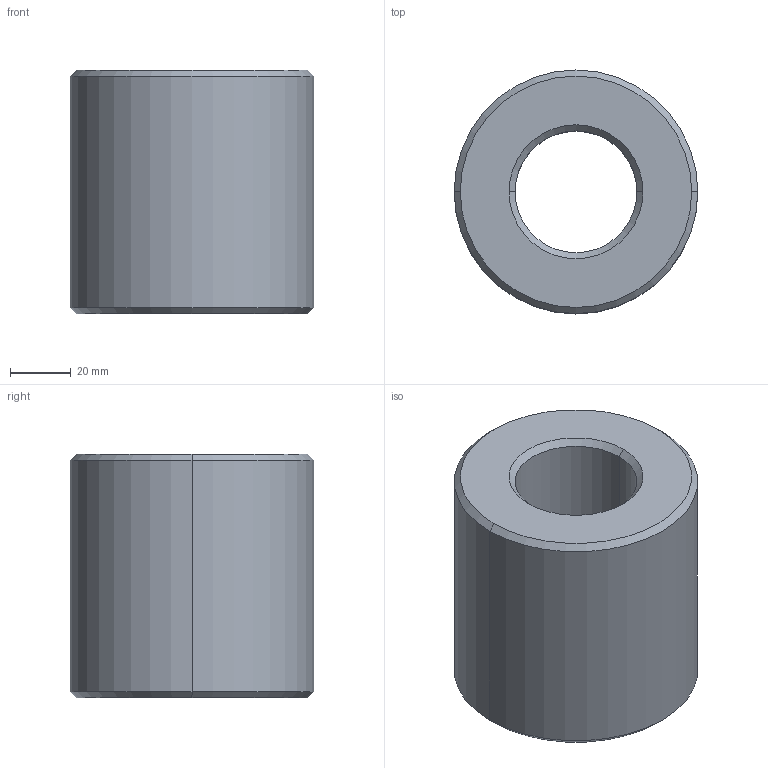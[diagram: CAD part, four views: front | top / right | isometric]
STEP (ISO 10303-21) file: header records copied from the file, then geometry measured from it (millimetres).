
FILE_DESCRIPTION (( 'STEP AP203' ), '1' );
FILE_NAME ('L1343.R40-14.step', '2024-10-24T14:44:35', ( '' ), ( '' ), 'SwSTEP 2.0', 'SolidWorks 2019', '' );
FILE_SCHEMA (( 'CONFIG_CONTROL_DESIGN' ));
Length unit declared in the file: millimetre
Products named in the file (1): L1343.R40-14
Bounding box: 80 x 80 x 80 mm (x, y, z)
Volume: 300084.9 mm3; surface area: 36815.8 mm2
Topology: 1 solids, 1 shells, 14 faces, 28 edges, 16 vertices
Faces by surface type: cone 8, cylinder 4, plane 2
Entity records: 445 total; most frequent: DIRECTION 74, CARTESIAN_POINT 59, ORIENTED_EDGE 56, AXIS2_PLACEMENT_3D 31, EDGE_CURVE 28, EDGE_LOOP 16, CIRCLE 16, VERTEX_POINT 16
